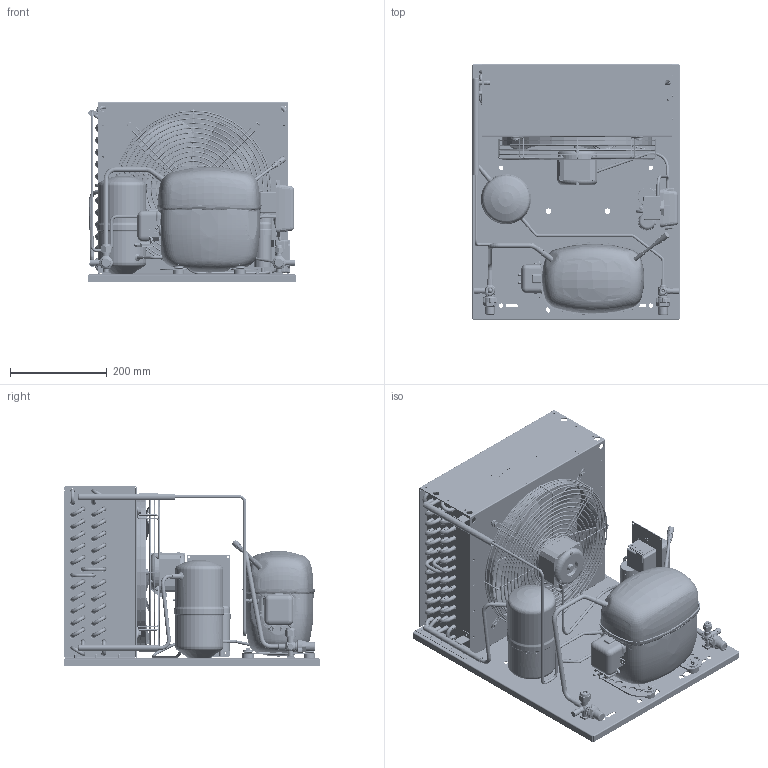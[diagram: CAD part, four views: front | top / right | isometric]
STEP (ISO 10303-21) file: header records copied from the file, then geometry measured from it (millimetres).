
FILE_DESCRIPTION(/* description */ ('Unknown'),/* implementation_level */ '2;1');
FILE_NAME(/* name */ '2298-0046',/* time_stamp */ '2021-12-15T15:17:36+01:00',/* author */ ('Unknown'),/* organization */ ('Unknown'),/* preprocessor_version */ 'ST-DEVELOPER v16.7',/* originating_system */ 'Solid Edge',/* authorisation */ 'Unknown');
FILE_SCHEMA (('AUTOMOTIVE_DESIGN {1 0 10303 214 3 1 1}'));
Products named in the file (73): 2298-0046; 92505125; 1440350c70; r50119606; r50119607; r50119601; r50000909; 2990210; r59700398; r50118004; r50115605; 84dm6x8xxxxgabf00; 84dm6x8xxxxgabf00_02; 84dm6x8xxxxgabf00_01; r50000850; 2990361; NET3T16PVN018; G30035; G30035_01; G30035_02; G30035_04; G30035_03; a300-19; a300-19_costruzione_oa_0; a300-19_costruzione_oa_1; a300-19_costruzione_oa_2; a300-19_costruzione_oa_3; a300-19_costruzione_oa_4; 6062_22M6; 100_200vs00; 6072_23m10; 84fm8x12xxxteff00; 84DM8X6.9XXESRF00; sc18cl-a-csr_Large_el; sc18cl-a-csr_TRM_SRF; sc18cl-a-csr_TRM_SRF_0; sc18cl-a-csr_TRM_SRF_1; sc18cl-a-csr_TRM_SRF_2; sc18cl-a-csr_TRM_SRF_3; sc18cl-a-csr_TRM_SRF_4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
Assembly tree (159 placements, depth 4):
  2298-0046
    92505125
    1440350c70
      r50119606
      r50119607
      r50119601
      r50000909
      2990210  x24
      r59700398  x30
      r50118004
      r50115605
      84dm6x8xxxxgabf00  x4
        84dm6x8xxxxgabf00_02
        84dm6x8xxxxgabf00_01
      r50000850  x2
      2990361  x2
    NET3T16PVN018
    G30035
      G30035_01
      G30035_02  x4
      G30035_04  x4
      G30035_03
    a300-19
      a300-19_costruzione_oa_0
      a300-19_costruzione_oa_1
      a300-19_costruzione_oa_2
      a300-19_costruzione_oa_3
      a300-19_costruzione_oa_4
    6062_22M6
    100_200vs00
    6072_23m10
    84fm8x12xxxteff00  x2
    84DM8X6.9XXESRF00
    sc18cl-a-csr_Large_el
      sc18cl-a-csr_TRM_SRF
      sc18cl-a-csr_TRM_SRF_0
      sc18cl-a-csr_TRM_SRF_1
      sc18cl-a-csr_TRM_SRF_2
      sc18cl-a-csr_TRM_SRF_3
      sc18cl-a-csr_TRM_SRF_4
      sc18cl-a-csr_TRM_SRF_5
      sc18cl_a_csr_cavo_01
      sc18cl_a_csr_cavo_02
    SC18MLX.3-A-CSR
    84RM10X21XXPIAF00  x4
    sc18cl-a-csr_piedino  x4
    7030_3m10
    84v1.8x35xxcopf00  x4
    8392_A  x2
    7210-0003  x2
    7560_2
    7010_22
    7560_3
    99510255
      8351_2
      99510255_Tubo
      8392_A
    84t4.8x8xxxtcca00_oa_5
    84t4.8x8xxxtcca00_oa_6
    84t4.8x8xxxtcca00_oa_7
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Bounding box: 430 x 530 x 371.32 mm (x, y, z)
Volume: 11762418.9 mm3; surface area: 4438340.9 mm2
Topology: 173 solids, 179 shells, 8995 faces, 22372 edges, 14498 vertices
Faces by surface type: plane 5259, cylinder 1899, bspline 779, torus 605, cone 405, sphere 48
Full cylindrical faces by diameter (mm): 0.5 x1, 1 x3, 1.2 x4, 1.65 x2, 1.8 x20, 2.2 x4, 2.31 x6, 2.7 x43, 3 x9, 3.2 x6, 3.242 x4, 3.3 x2, 3.4 x4, 3.5 x5, 3.6 x8, 3.7 x4, 3.8 x2, 3.85 x2, 3.9 x2, 4 x46, 4.2 x14, 4.3 x1, 4.4 x4, 4.5 x27, 4.6 x6, 4.66 x4, 4.7 x6, 4.9 x1, 5 x17, 5.1 x2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
Entity records: 345276 total; most frequent: CARTESIAN_POINT 146836, ORIENTED_EDGE 34936, DIRECTION 28903, EDGE_CURVE 17468, VERTEX_POINT 12151, FACE_BOUND 10693, EDGE_LOOP 10676, AXIS2_PLACEMENT_3D 10646
